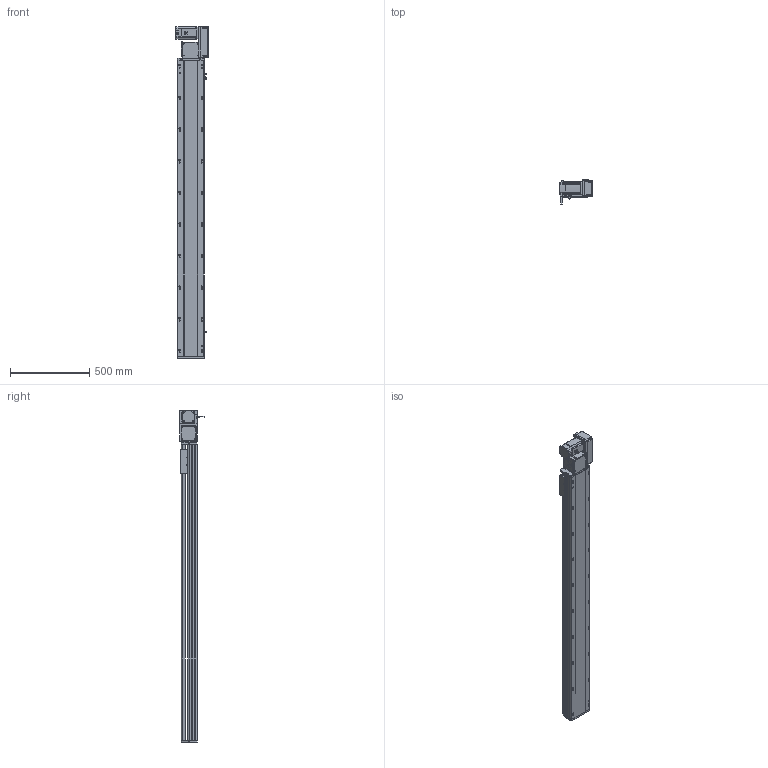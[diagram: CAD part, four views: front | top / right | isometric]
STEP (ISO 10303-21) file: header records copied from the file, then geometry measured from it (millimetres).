
FILE_DESCRIPTION (( 'STEP AP214' ), '1' );
FILE_NAME ('RTB17S-XX-1600-R-M75-C4.STEP', '2025-12-12T01:39:01', ( '' ), ( '' ), 'SwSTEP 2.0', 'SolidWorks 2018', '' );
FILE_SCHEMA (( 'AUTOMOTIVE_DESIGN' ));
Length unit declared in the file: millimetre
Products named in the file (15): RTB22S-GY-005P^RTB17S-R-々湍釱蚾饜-750W_RTB17S-XX-XX-R-M75-C4; RTB17S-XX-1600-R-M75-C4; RTB17S-賑釱^RTB17S-XX-XX-R-M75-C4; RTB22S-GY-017P^RTB17S-R-々湍釱蚾饜-750W_RTB17S-XX-XX-R-M75-C4; RTB17S-L-001-耜醱啣^RTB17S-XX-XX-R-M75-C4; RTH13-BL-012覜茼え俋离^RTB17S-賑釱_RTB17S-XX-XX-R-M75-C4; RTB17S-L-014-T20-P75--々湍釱^RTB17S-R-々湍釱蚾饜-750W_RTB17S-XX-XX-R-M75-C4; RTB22S-GY-008-M75--萇儂啣^RTB17S-R-々湍釱蚾饜-750W_RTB17S-XX-XX-R-M75-C4; RTB17S-R-々湍釱蚾饜-750W^RTB17S-XX-XX-R-M75-C4; RTB17S-L-007奻裔^RTB17S-XX-XX-R-M75-C4; RTB17S-L-004-賑釱^RTB17S-賑釱_RTB17S-XX-XX-R-M75-C4; RTB22S-GY-018P^RTB17S-R-々湍釱蚾饜-750W_RTB17S-XX-XX-R-M75-C4; 750W萇儂^RTB17S-XX-XX-R-M75-C4; EE672^RTB17S-XX-XX-R-M75-C4; RTB17-R-011菁釱^RTB17S-XX-XX-R-M75-C4
Assembly tree (17 placements, depth 3):
  RTB17S-XX-1600-R-M75-C4
    RTB17-R-011菁釱^RTB17S-XX-XX-R-M75-C4
    EE672^RTB17S-XX-XX-R-M75-C4  x3
    RTB17S-L-001-耜醱啣^RTB17S-XX-XX-R-M75-C4
    RTB17S-賑釱^RTB17S-XX-XX-R-M75-C4
      RTB17S-L-004-賑釱^RTB17S-賑釱_RTB17S-XX-XX-R-M75-C4
      RTH13-BL-012覜茼え俋离^RTB17S-賑釱_RTB17S-XX-XX-R-M75-C4
    RTB17S-L-007奻裔^RTB17S-XX-XX-R-M75-C4
    750W萇儂^RTB17S-XX-XX-R-M75-C4
    RTB17S-R-々湍釱蚾饜-750W^RTB17S-XX-XX-R-M75-C4
      RTB17S-L-014-T20-P75--々湍釱^RTB17S-R-々湍釱蚾饜-750W_RTB17S-XX-XX-R-M75-C4
      RTB22S-GY-005P^RTB17S-R-々湍釱蚾饜-750W_RTB17S-XX-XX-R-M75-C4
      RTB22S-GY-017P^RTB17S-R-々湍釱蚾饜-750W_RTB17S-XX-XX-R-M75-C4  x2
      RTB22S-GY-008-M75--萇儂啣^RTB17S-R-々湍釱蚾饜-750W_RTB17S-XX-XX-R-M75-C4
      RTB22S-GY-018P^RTB17S-R-々湍釱蚾饜-750W_RTB17S-XX-XX-R-M75-C4
Bounding box: 207.4 x 152.7 x 2099 mm (x, y, z)
Volume: 15954455.5 mm3; surface area: 2807017.3 mm2
Topology: 17 solids, 17 shells, 2137 faces, 5944 edges, 3842 vertices
Faces by surface type: plane 976, cylinder 745, bspline 294, cone 110, sphere 8, torus 4
Entity records: 60406 total; most frequent: CARTESIAN_POINT 17808, ORIENTED_EDGE 8732, DIRECTION 8132, EDGE_CURVE 4366, AXIS2_PLACEMENT_3D 2862, VERTEX_POINT 2846, VECTOR 2408, LINE 2408
